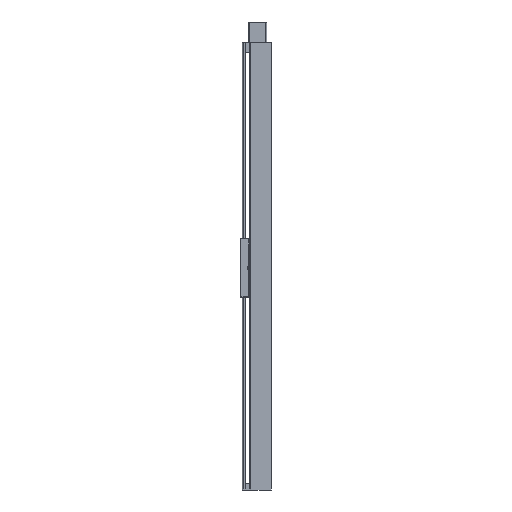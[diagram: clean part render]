
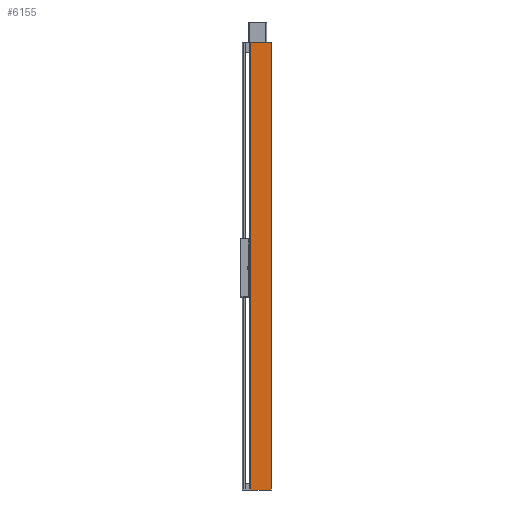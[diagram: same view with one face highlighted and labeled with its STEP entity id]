
A CAD part, left-side view. The second image highlights one B-rep face of the part: STEP entity #6155.
In plain terms, the highlighted planar face has unit normal (-1, 0, 0).
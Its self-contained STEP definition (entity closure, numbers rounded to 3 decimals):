
#1937=CARTESIAN_POINT('',(-68.,65.5,1395.0));
#1938=VERTEX_POINT('',#1937);
#1946=CARTESIAN_POINT('',(-68.0,0.5,1395.0));
#1947=VERTEX_POINT('',#1946);
#1948=CARTESIAN_POINT('',(-68.0,0.5,1395.0));
#1949=DIRECTION('',(0.0,1.0,0.0));
#1950=VECTOR('',#1949,65.0);
#1951=LINE('',#1948,#1950);
#1952=EDGE_CURVE('',#1947,#1938,#1951,.T.);
#5386=CARTESIAN_POINT('',(-68.0,0.5,-20.0));
#5387=VERTEX_POINT('',#5386);
#5396=CARTESIAN_POINT('',(-68.,65.5,-20.0));
#5397=VERTEX_POINT('',#5396);
#5398=CARTESIAN_POINT('',(-68.,65.5,-20.0));
#5399=DIRECTION('',(0.0,-1.0,0.0));
#5400=VECTOR('',#5399,65.0);
#5401=LINE('',#5398,#5400);
#5402=EDGE_CURVE('',#5397,#5387,#5401,.T.);
#6104=CARTESIAN_POINT('',(-68.0,0.5,-20.0));
#6105=DIRECTION('',(0.0,0.0,1.0));
#6106=VECTOR('',#6105,1415.0);
#6107=LINE('',#6104,#6106);
#6108=EDGE_CURVE('',#5387,#1947,#6107,.T.);
#6139=CARTESIAN_POINT('',(-68.0,0.5,0.0));
#6140=DIRECTION('',(-1.0,0.0,0.0));
#6141=DIRECTION('',(0.0,0.0,1.0));
#6142=AXIS2_PLACEMENT_3D('',#6139,#6140,#6141);
#6143=PLANE('',#6142);
#6144=CARTESIAN_POINT('',(-68.,65.5,-20.0));
#6145=DIRECTION('',(0.0,0.0,1.0));
#6146=VECTOR('',#6145,1415.0);
#6147=LINE('',#6144,#6146);
#6148=EDGE_CURVE('',#5397,#1938,#6147,.T.);
#6149=ORIENTED_EDGE('',*,*,#6148,.F.);
#6150=ORIENTED_EDGE('',*,*,#5402,.T.);
#6151=ORIENTED_EDGE('',*,*,#6108,.T.);
#6152=ORIENTED_EDGE('',*,*,#1952,.T.);
#6153=EDGE_LOOP('',(#6149,#6150,#6151,#6152));
#6154=FACE_OUTER_BOUND('',#6153,.T.);
#6155=ADVANCED_FACE('',(#6154),#6143,.T.);
